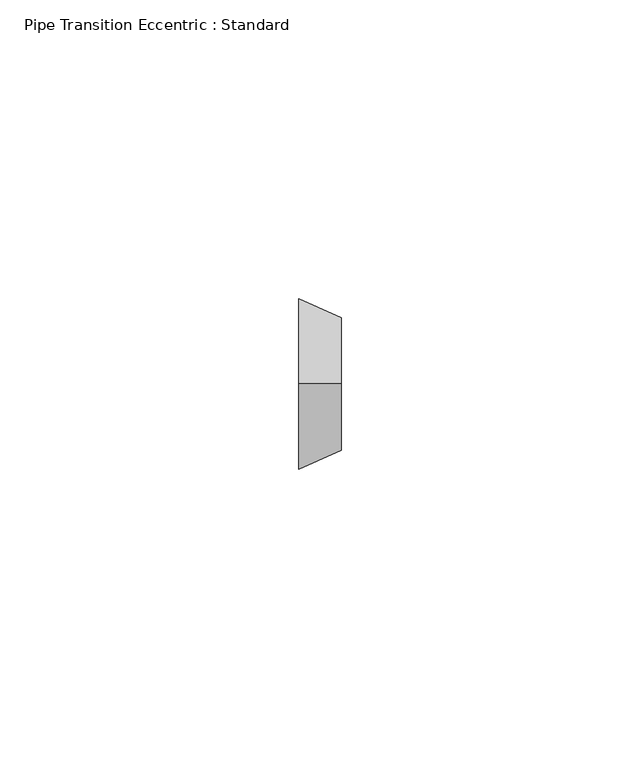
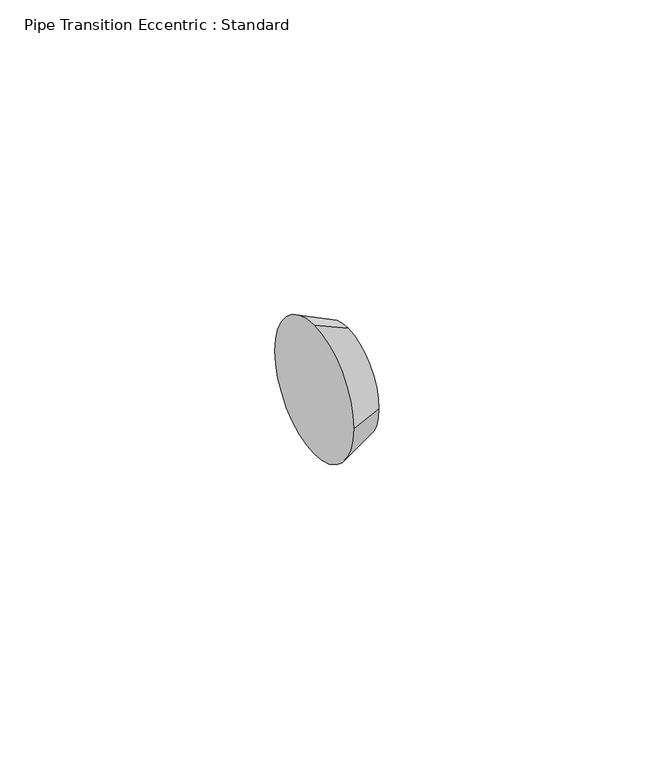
"""IFC4 building model written with IfcOpenShell, lengths in millimetres: pipe fitting geometry, Pipe Transition Eccentric : Standard."""

from ifc_helpers import new_model, si_unit, frame, origin, place, context, project, spatial, polyline, circle_curve, source, transform, mapped, element, save
from ifc_brep_helpers import plane_surface, revolved_surface, advanced_brep


def pipe_transition_eccentric_standard_dbf49378(model_context):
    return source(origin(), model_context, "Body", "AdvancedBrep", [
        advanced_brep(
        [(7.14375, 0.0, 11.1125), (7.14375, -11.1125, 0.0), (7.14375, 0.0, -11.1125), (7.14375, 11.1125, 0.0), (0.0, 0.0, 14.2875), (0.0, 14.2875, 0.0), (0.0, 0.0, -14.2875), (0.0, -14.2875, 0.0)],
        [
            (0, 1, circle_curve(frame((7.14375, 0.0, 0.0), z_axis=(1.0, 0.0, 0.0), x_axis=(0.0, 0.0, 1.0)), 11.1125)),
            (1, 2, circle_curve(frame((7.14375, 0.0, 0.0), z_axis=(1.0, 0.0, 0.0), x_axis=(0.0, -1.0, 0.0)), 11.1125)),
            (2, 3, circle_curve(frame((7.14375, 0.0, 0.0), z_axis=(1.0, 0.0, 0.0), x_axis=(0.0, 0.0, -1.0)), 11.1125)),
            (3, 0, circle_curve(frame((7.14375, 0.0, 0.0), z_axis=(1.0, 0.0, 0.0), x_axis=(0.0, 1.0, 0.0)), 11.1125)),
            (4, 5, circle_curve(frame((0.0, 0.0, 0.0), z_axis=(-1.0, 0.0, 0.0), x_axis=(0.0, 1.0, 0.0)), 14.2875)),
            (5, 6, circle_curve(frame((0.0, 0.0, 0.0), z_axis=(-1.0, 0.0, 0.0), x_axis=(0.0, 0.0, -1.0)), 14.2875)),
            (6, 7, circle_curve(frame((0.0, 0.0, 0.0), z_axis=(-1.0, 0.0, 0.0), x_axis=(0.0, -1.0, 0.0)), 14.2875)),
            (7, 4, circle_curve(frame((0.0, 0.0, 0.0), z_axis=(-1.0, 0.0, 0.0), x_axis=(0.0, 0.0, 1.0)), 14.2875)),
            (7, 1),
            (0, 4),
            (6, 2),
            (5, 3),
        ],
        [
            plane_surface(frame((7.14375, 0.0, 0.0), z_axis=(1.0, 0.0, 0.0), x_axis=(0.0, -1.0, 0.0))),
            plane_surface(frame((0.0, 0.0, 0.0), z_axis=(-1.0, 0.0, 0.0), x_axis=(0.0, -1.0, 0.0))),
            revolved_surface(polyline([(7.143750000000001, 0.0, 11.1125), (0.0, 0.0, 14.2875)]), (32.146875, 0.0, 0.0), (-1.0, 0.0, 0.0)),
            revolved_surface(polyline([(7.143750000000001, -11.1125, 0.0), (0.0, -14.2875, 0.0)]), (32.146875, 0.0, 0.0), (-1.0, 0.0, 0.0)),
            revolved_surface(polyline([(7.143750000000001, 0.0, -11.1125), (0.0, 0.0, -14.2875)]), (32.146875, 0.0, 0.0), (-1.0, 0.0, 0.0)),
            revolved_surface(polyline([(7.143750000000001, 11.1125, 0.0), (0.0, 14.2875, 0.0)]), (32.146875, 0.0, 0.0), (-1.0, 0.0, 0.0)),
        ],
        [
            (0, [[1, 2, 3, 4]]),
            (1, [[5, 6, 7, 8]]),
            (2, [[-8, 9, -1, 10]]),
            (3, [[-7, 11, -2, -9]]),
            (4, [[-6, 12, -3, -11]]),
            (5, [[-5, -10, -4, -12]]),
        ],
    ),
        advanced_brep(
        [(7.14375, 0.0, 11.1125), (7.14375, -11.1125, 0.0), (7.14375, 0.0, -11.1125), (7.14375, 11.1125, 0.0), (0.0, 0.0, 14.2875), (0.0, 14.2875, 0.0), (0.0, 0.0, -14.2875), (0.0, -14.2875, 0.0)],
        [
            (0, 1, circle_curve(frame((7.14375, 0.0, 0.0), z_axis=(1.0, 0.0, -1.2169486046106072e-12), x_axis=(1.2170019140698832e-12, 0.0, 1.0)), 11.1125)),
            (1, 2, circle_curve(frame((7.14375, 0.0, 0.0), z_axis=(1.0, 0.0, -1.169579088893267e-12), x_axis=(0.0, -1.0, 0.0)), 11.1125)),
            (2, 3, circle_curve(frame((7.14375, 0.0, 0.0), z_axis=(1.0, 0.0, -1.870967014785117e-12), x_axis=(-1.8708807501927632e-12, 0.0, -1.0)), 11.1125)),
            (3, 0, circle_curve(frame((7.14375, 0.0, 0.0), z_axis=(1.0, 0.0, 0.0), x_axis=(0.0, 1.0, 0.0)), 11.1125)),
            (4, 5, circle_curve(frame((0.0, 0.0, 0.0), z_axis=(-1.0, 0.0, 0.0), x_axis=(0.0, 1.0, 0.0)), 14.2875)),
            (5, 6, circle_curve(frame((0.0, 0.0, 0.0), z_axis=(-1.0, 0.0, 1.870967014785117e-12), x_axis=(-1.8708807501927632e-12, 0.0, -1.0)), 14.2875)),
            (6, 7, circle_curve(frame((0.0, 0.0, 0.0), z_axis=(-1.0, 0.0, 1.169579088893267e-12), x_axis=(0.0, -1.0, 0.0)), 14.2875)),
            (7, 4, circle_curve(frame((0.0, 0.0, 0.0), z_axis=(-1.0, 0.0, 1.2169486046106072e-12), x_axis=(1.2170019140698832e-12, 0.0, 1.0)), 14.2875)),
            (7, 1),
            (0, 4),
            (6, 2),
            (5, 3),
        ],
        [
            plane_surface(frame((7.14375, 0.0, 0.0), z_axis=(1.0, 0.0, 0.0), x_axis=(0.0, -1.0, 0.0))),
            plane_surface(frame((0.0, 0.0, 0.0), z_axis=(-1.0, 0.0, 0.0), x_axis=(0.0, -1.0, 0.0))),
            revolved_surface(polyline([(7.143750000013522, 0.0, 11.11249999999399), (0.0, 0.0, 14.2875)]), (32.146875, 0.0, 0.0), (-1.0, 0.0, 1.2169486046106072e-12)),
            revolved_surface(polyline([(7.1437500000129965, -11.112499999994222, 0.0), (0.0, -14.2875, 0.0)]), (32.146875, 0.0, 0.0), (-1.0, 0.0, 1.169579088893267e-12)),
            revolved_surface(polyline([(7.143750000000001, 0.0, -11.1125), (-2.673061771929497e-11, 0.0, -14.28750000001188)]), (32.146875, 0.0, 0.0), (-1.0, 0.0, 1.870967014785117e-12)),
            revolved_surface(polyline([(7.143750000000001, 11.1125, 0.0), (0.0, 14.2875, 0.0)]), (32.146875, 0.0, 0.0), (-1.0, 0.0, 0.0)),
        ],
        [
            (0, [[1, 2, 3, 4]]),
            (1, [[5, 6, 7, 8]]),
            (2, [[-8, 9, -1, 10]]),
            (3, [[-7, 11, -2, -9]]),
            (4, [[-6, 12, -3, -11]]),
            (5, [[-5, -10, -4, -12]]),
        ],
    ),
    ])


if __name__ == "__main__":
    model = new_model("IFC4")
    model_context = context("Model", 3, world=origin())
    ifc_project = project(units=[si_unit("LENGTHUNIT", "METRE", prefix="MILLI")], contexts=[model_context])
    site = spatial("IfcSite", under=ifc_project)
    building = spatial("IfcBuilding", under=site)
    placement = place(None, origin())
    pipe_transition_eccentric_standard_shape = pipe_transition_eccentric_standard_dbf49378(model_context)
    element("IfcPipeFitting", 1, ObjectType="Pipe Transition Eccentric : Standard", at=placement, inside=building, context=model_context, shape_type="MappedRepresentation", body=[
        mapped(pipe_transition_eccentric_standard_shape, transform((0.0, 0.0, 0.0), x_axis=(1.0, 0.0, 0.0), y_axis=(0.0, 1.0, 0.0), z_axis=(0.0, 0.0, 1.0))),
    ])
    save(model, "model.ifc")
